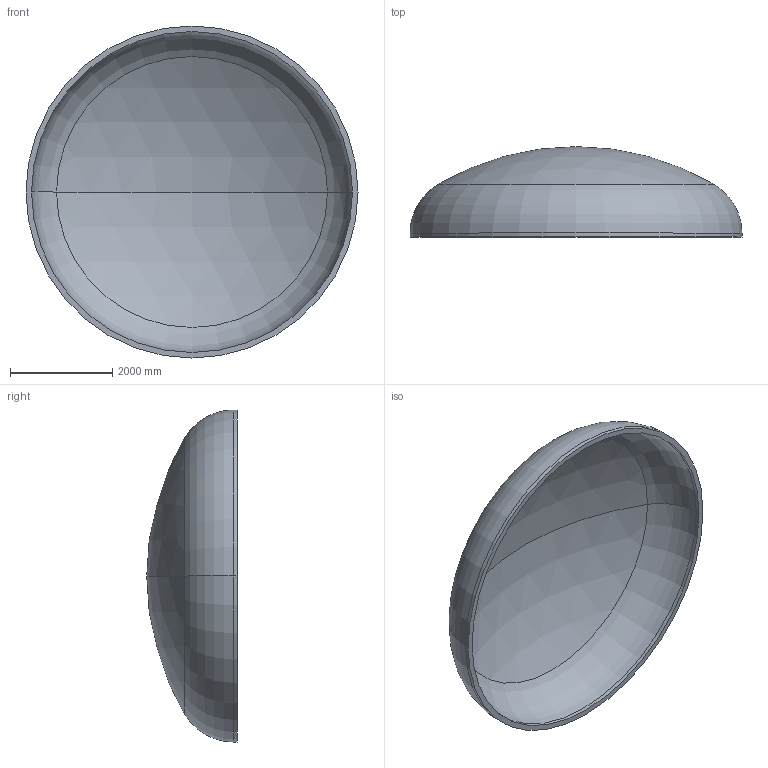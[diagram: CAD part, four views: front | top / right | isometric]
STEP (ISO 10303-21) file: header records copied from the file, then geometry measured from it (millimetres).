
FILE_DESCRIPTION (( 'STEP AP203' ), '1' );
FILE_NAME ('DIN 28013 Korbbogenform_-_Boden DIN 28013 - 6500 x 75 - I - s=108.step', '2016-07-04T10:44:14', ( '' ), ( '' ), 'SwSTEP 2.0', 'SolidWorks 2013', '' );
FILE_SCHEMA (( 'CONFIG_CONTROL_DESIGN' ));
Length unit declared in the file: millimetre
Products named in the file (1): DIN 28013 Korbbogenform_-_Boden DIN 28013 - 6500 x 75 - I - s=108
Bounding box: 6500 x 1770.27 x 6500 mm (x, y, z)
Volume: 5017541791.8 mm3; surface area: 95110589 mm2
Topology: 1 solids, 1 shells, 13 faces, 24 edges, 14 vertices
Faces by surface type: torus 4, cylinder 4, sphere 4, plane 1
Entity records: 407 total; most frequent: DIRECTION 72, CARTESIAN_POINT 52, ORIENTED_EDGE 48, AXIS2_PLACEMENT_3D 34, EDGE_CURVE 24, CIRCLE 20, VERTEX_POINT 14, EDGE_LOOP 14
